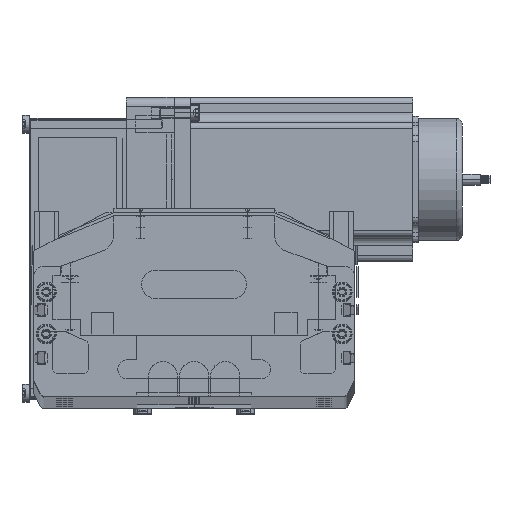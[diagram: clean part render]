
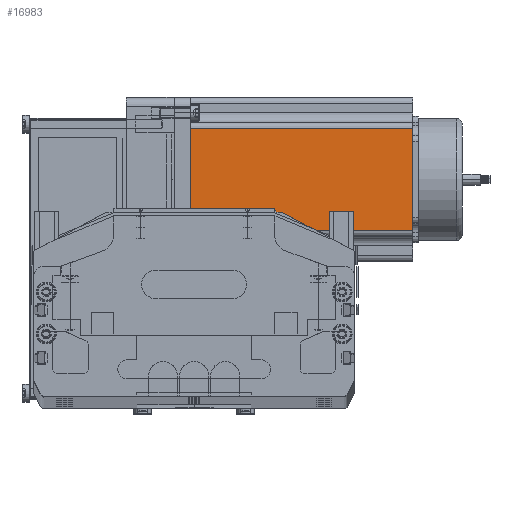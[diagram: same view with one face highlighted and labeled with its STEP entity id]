
A CAD part, top view. The second image highlights one B-rep face of the part: STEP entity #16983.
In plain terms, the highlighted planar face has unit normal (0, 0, 1) as drawn and (0, -1, 0) by its records, which use the part's own axes.
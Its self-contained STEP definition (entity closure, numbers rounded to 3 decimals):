
#16418 = EDGE_LOOP ( 'NONE', ( #16801, #16989, #16995, #16793 ) ) ;
#16421 = VERTEX_POINT ( 'NONE', #53784 ) ;
#16793 = ORIENTED_EDGE ( 'NONE', *, *, #17003, .T. ) ;
#16801 = ORIENTED_EDGE ( 'NONE', *, *, #16803, .T. ) ;
#16803 = EDGE_CURVE ( 'NONE', #16421, #16985, #54726, .T. ) ;
#16983 = ADVANCED_FACE ( 'NONE', ( #55276 ), #55275, .F. ) ;
#16985 = VERTEX_POINT ( 'NONE', #55339 ) ;
#16987 = VERTEX_POINT ( 'NONE', #55253 ) ;
#16989 = ORIENTED_EDGE ( 'NONE', *, *, #16990, .T. ) ;
#16990 = EDGE_CURVE ( 'NONE', #16985, #16987, #55288, .T. ) ;
#16995 = ORIENTED_EDGE ( 'NONE', *, *, #16997, .F. ) ;
#16997 = EDGE_CURVE ( 'NONE', #16999, #16987, #55340, .T. ) ;
#16999 = VERTEX_POINT ( 'NONE', #55257 ) ;
#17003 = EDGE_CURVE ( 'NONE', #16999, #16421, #55265, .T. ) ;
#53784 = CARTESIAN_POINT ( 'NONE',  ( 16.16, 0., 0. ) ) ;
#54719 = DIRECTION ( 'NONE',  ( 1., 0., 0. ) ) ;
#54720 = VECTOR ( 'NONE', #54719, 1000. ) ;
#54726 = LINE ( 'NONE', #54775, #54720 ) ;
#54775 = CARTESIAN_POINT ( 'NONE',  ( 0., 0., 0. ) ) ;
#55243 = DIRECTION ( 'NONE',  ( 1., 0., 0. ) ) ;
#55244 = VECTOR ( 'NONE', #55243, 1000. ) ;
#55245 = CARTESIAN_POINT ( 'NONE',  ( 0., 0., 116.5 ) ) ;
#55253 = CARTESIAN_POINT ( 'NONE',  ( 69.74, 0., 116.5 ) ) ;
#55257 = CARTESIAN_POINT ( 'NONE',  ( 16.16, 0., 116.5 ) ) ;
#55262 = DIRECTION ( 'NONE',  ( 0., 0., -1. ) ) ;
#55263 = VECTOR ( 'NONE', #55262, 1000. ) ;
#55264 = CARTESIAN_POINT ( 'NONE',  ( 16.16, 0., 116.5 ) ) ;
#55265 = LINE ( 'NONE', #55264, #55263 ) ;
#55269 = AXIS2_PLACEMENT_3D ( 'NONE', #55278, #55337, #55335 ) ;
#55275 = PLANE ( 'NONE',  #55269 ) ;
#55276 = FACE_OUTER_BOUND ( 'NONE', #16418, .T. ) ;
#55278 = CARTESIAN_POINT ( 'NONE',  ( 0., 0., 116.5 ) ) ;
#55285 = DIRECTION ( 'NONE',  ( 0., 0., 1. ) ) ;
#55286 = VECTOR ( 'NONE', #55285, 1000. ) ;
#55287 = CARTESIAN_POINT ( 'NONE',  ( 69.74, 0., 116.5 ) ) ;
#55288 = LINE ( 'NONE', #55287, #55286 ) ;
#55335 = DIRECTION ( 'NONE',  ( 0., 0., 1. ) ) ;
#55337 = DIRECTION ( 'NONE',  ( 0., 1., 0. ) ) ;
#55339 = CARTESIAN_POINT ( 'NONE',  ( 69.74, 0., 0. ) ) ;
#55340 = LINE ( 'NONE', #55245, #55244 ) ;
